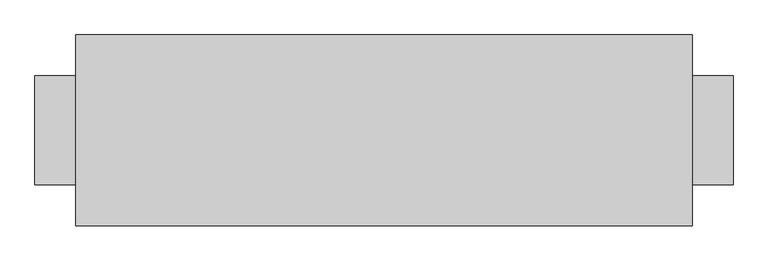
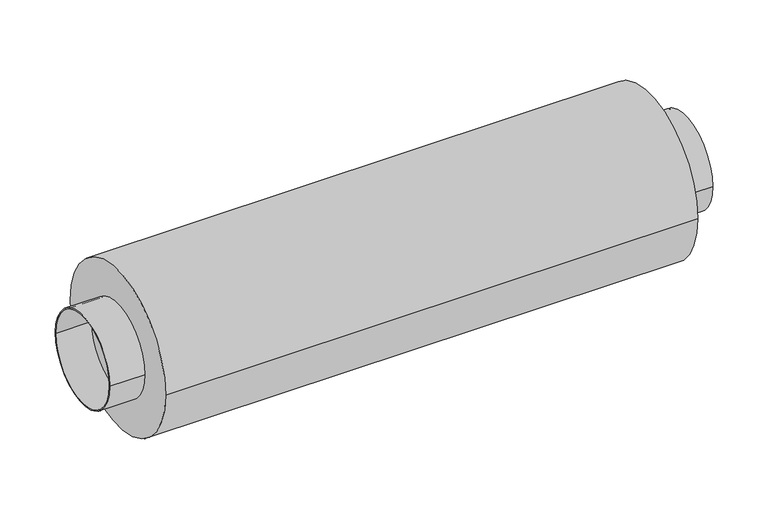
"""IFC4 building model written with IfcOpenShell, lengths in millimetres: damper geometry, СВ_Шумоглушитель_КанальныйКруглый_DN100-315_SHK : SHK-160/900."""

import ifcopenshell
import ifcopenshell.guid

model = None  # the IFC model being written
_history = None  # IfcOwnerHistory: only IFC2X3 demands one
_inside = {}  # id of a spatial element -> (the spatial element, [elements in it])
_under = {}  # id of a project, library or spatial element -> (it, [spatial elements below it])
_declared = {}  # id of a project -> (the project, [libraries it declares])
_typed = {}  # id of a type object -> (the type object, [elements of that type])
_made_of = {}  # id of a material, layer set ... -> (it, [elements and type objects made of it])


def new_model(schema):
    """Start an empty IFC model of exactly this schema.

    Asked for "IFC4X3", IfcOpenShell would pick the latest addendum, in which some entities
    have other attributes; the version numbers below select the first issue.
    IFC2X3 requires an IfcOwnerHistory on every rooted entity: one is made here for all.
    """
    global model, _history
    if schema == "IFC4X3":
        model = ifcopenshell.file(schema_version=(4, 3, 0, 0))
    else:
        model = ifcopenshell.file(schema=schema)
    _inside.clear()
    _under.clear()
    _declared.clear()
    _typed.clear()
    _made_of.clear()
    _history = None
    if model.schema == "IFC2X3":
        org = make("IfcOrganization", Name="unknown")
        user = make(
            "IfcPersonAndOrganization",
            ThePerson=make("IfcPerson", FamilyName="unknown"),
            TheOrganization=org,
        )
        app = make(
            "IfcApplication",
            ApplicationDeveloper=org,
            Version="unknown",
            ApplicationFullName="unknown",
            ApplicationIdentifier="unknown",
        )
        _history = make(
            "IfcOwnerHistory",
            OwningUser=user,
            OwningApplication=app,
            ChangeAction="ADDED",
            CreationDate=0,
        )
    return model


def make(cls, **values):
    """One entity of the class cls with the attributes given. An attribute that is None is left unset."""
    return model.create_entity(
        cls, **{name: value for name, value in values.items() if value is not None}
    )


def rooted(cls, **values):
    """An entity with a GlobalId (a new one), such as an element, a storey or a relation."""
    return make(cls, GlobalId=ifcopenshell.guid.new(), OwnerHistory=_history, **values)


def si_unit(unit_type, name, prefix=None):
    """IfcSIUnit, for example si_unit("LENGTHUNIT", "METRE", prefix="MILLI")."""
    return make("IfcSIUnit", UnitType=unit_type, Prefix=prefix, Name=name)


def assignment(units):
    """IfcUnitAssignment: the units of a project."""
    return None if units is None else make("IfcUnitAssignment", Units=units)


def point(xyz):
    """IfcCartesianPoint."""
    return None if xyz is None else make("IfcCartesianPoint", Coordinates=xyz)


def direction(xyz):
    """IfcDirection."""
    return None if xyz is None else make("IfcDirection", DirectionRatios=xyz)


def frame(location, z_axis=None, x_axis=None):
    """IfcAxis2Placement3D, a coordinate frame: its origin and axes. An axis left out is left unset."""
    return make(
        "IfcAxis2Placement3D",
        Location=point(location),
        Axis=direction(z_axis),
        RefDirection=direction(x_axis),
    )


def frame_2d(location, x_axis=None):
    """IfcAxis2Placement2D, a coordinate frame in the plane: its origin and x axis."""
    return make(
        "IfcAxis2Placement2D", Location=point(location), RefDirection=direction(x_axis)
    )


def origin():
    """The frame at (0, 0, 0) with its axes left unset."""
    return frame((0.0, 0.0, 0.0))


def origin_2d():
    """The frame at (0, 0) in the plane with its x axis left unset."""
    return frame_2d((0.0, 0.0))


def place(relative_to, where):
    """IfcLocalPlacement: puts the frame where relative to a parent placement (None: the world)."""
    return make(
        "IfcLocalPlacement", PlacementRelTo=relative_to, RelativePlacement=where
    )


def context(
    kind, dimensions, precision=None, world=None, true_north=None, identifier=None
):
    """IfcGeometricRepresentationContext, for example the 3D "Model" context."""
    return make(
        "IfcGeometricRepresentationContext",
        ContextIdentifier=identifier,
        ContextType=kind,
        CoordinateSpaceDimension=dimensions,
        Precision=precision,
        WorldCoordinateSystem=world,
        TrueNorth=true_north,
    )


def project(units=None, contexts=None):
    """IfcProject with its units and contexts."""
    return rooted(
        "IfcProject",
        Name="project",
        RepresentationContexts=contexts,
        UnitsInContext=assignment(units),
    )


def spatial(cls, under=None, at=None, **own):
    """A site, building, storey or space (cls), placed at a placement, below another one or the project."""
    s = rooted(cls, ObjectPlacement=at, **own)
    if under is not None:
        _under.setdefault(under.id(), (under, []))[1].append(s)
    return s


def circle_curve(where, radius):
    """IfcCircle in the frame where."""
    return make("IfcCircle", Position=where, Radius=radius)


def trimmed(basis, trim1, trim2, sense, master):
    """IfcTrimmedCurve: the piece of a basis curve between two trims."""
    return make(
        "IfcTrimmedCurve",
        BasisCurve=basis,
        Trim1=trim1,
        Trim2=trim2,
        SenseAgreement=sense,
        MasterRepresentation=master,
    )


def segment(curve, same_sense, transition):
    """IfcCompositeCurveSegment."""
    return make(
        "IfcCompositeCurveSegment",
        Transition=transition,
        SameSense=same_sense,
        ParentCurve=curve,
    )


def composite_curve(segments, self_intersect=None):
    """IfcCompositeCurve: segments joined end to end."""
    return make("IfcCompositeCurve", Segments=segments, SelfIntersect=self_intersect)


def outline(outer, holes=None, kind="AREA"):
    """IfcArbitraryClosedProfileDef: a profile drawn as a closed curve; with holes, ...WithVoids."""
    if holes is None:
        return make("IfcArbitraryClosedProfileDef", ProfileType=kind, OuterCurve=outer)
    return make(
        "IfcArbitraryProfileDefWithVoids",
        ProfileType=kind,
        OuterCurve=outer,
        InnerCurves=holes,
    )


def extrude(swept, where, along, depth):
    """IfcExtrudedAreaSolid: the profile swept, set in the frame where, extruded along a direction by depth."""
    return make(
        "IfcExtrudedAreaSolid",
        SweptArea=swept,
        Position=where,
        ExtrudedDirection=direction(along),
        Depth=depth,
    )


def shape(context_of_items, identifier, shape_type, items):
    """IfcShapeRepresentation: the items that make up one representation, for example the "Body"."""
    return make(
        "IfcShapeRepresentation",
        ContextOfItems=context_of_items,
        RepresentationIdentifier=identifier,
        RepresentationType=shape_type,
        Items=items,
    )


def source(mapping_origin, context_of_items, identifier, shape_type, items):
    """IfcRepresentationMap: a shape defined once, which mapped items show again and again."""
    return make(
        "IfcRepresentationMap",
        MappingOrigin=mapping_origin,
        MappedRepresentation=shape(context_of_items, identifier, shape_type, items),
    )


def transform(
    local_origin,
    x_axis=None,
    y_axis=None,
    z_axis=None,
    scale=None,
    scale2=None,
    scale3=None,
    uniform=True,
):
    """IfcCartesianTransformationOperator3D, or its non-uniform kind. x_axis, y_axis, z_axis: its Axis1, 2, 3."""
    if uniform:
        return make(
            "IfcCartesianTransformationOperator3D",
            Axis1=direction(x_axis),
            Axis2=direction(y_axis),
            LocalOrigin=point(local_origin),
            Scale=scale,
            Axis3=direction(z_axis),
        )
    return make(
        "IfcCartesianTransformationOperator3DnonUniform",
        Axis1=direction(x_axis),
        Axis2=direction(y_axis),
        LocalOrigin=point(local_origin),
        Scale=scale,
        Axis3=direction(z_axis),
        Scale2=scale2,
        Scale3=scale3,
    )


def mapped(mapping_source, mapping_target):
    """IfcMappedItem: shows the shape of a source again, moved by a transform."""
    return make(
        "IfcMappedItem", MappingSource=mapping_source, MappingTarget=mapping_target
    )


def made_of(thing, what):
    """Note that an element or type object is made of a material, layer set ...; save() writes the relation."""
    if what is not None:
        _made_of.setdefault(what.id(), (what, []))[1].append(thing)
    return thing


def element(
    cls,
    number,
    at=None,
    inside=None,
    cuts=None,
    type_object=None,
    material=None,
    context=None,
    identifier="Body",
    shape_type=None,
    held_by="IfcProductDefinitionShape",
    body=None,
    shapes=None,
    **own,
):
    """One element of the class cls, such as IfcWall. Its Tag is "e" and its number.

    at: its placement. inside: the storey or other place that contains it. cuts: it is an
    opening in that element (IfcRelVoidsElement). A single representation is given by context,
    identifier, shape_type and body (its items); several are given by shapes. held_by: the class
    of the entity that holds the representations. save() writes the other relations.
    """
    e = rooted(cls, Tag="e%d" % number, ObjectPlacement=at, **own)
    if body is not None:
        shapes = [shape(context, identifier, shape_type, body)]
    if shapes is not None:
        e.Representation = make(held_by, Representations=shapes)
    if inside is not None:
        _inside.setdefault(inside.id(), (inside, []))[1].append(e)
    if cuts is not None:
        rooted(
            "IfcRelVoidsElement", RelatingBuildingElement=cuts, RelatedOpeningElement=e
        )
    if type_object is not None:
        _typed.setdefault(type_object.id(), (type_object, []))[1].append(e)
    return made_of(e, material)


def aggregate(whole, parts):
    """IfcRelAggregates: a whole, such as a stair, and the parts it consists of."""
    return rooted("IfcRelAggregates", RelatingObject=whole, RelatedObjects=parts)


def save(model, path):
    """Write the relations noted so far, then the file.

    IfcRelAggregates (storeys below a building ...), IfcRelContainedInSpatialStructure (elements
    in a storey), IfcRelDefinesByType, IfcRelAssociatesMaterial and IfcRelDeclares: one each for
    every whole, place, type object, material and project.
    """
    for whole, parts in _under.values():
        aggregate(whole, parts)
    for where, things in _inside.values():
        rooted(
            "IfcRelContainedInSpatialStructure",
            RelatedElements=things,
            RelatingStructure=where,
        )
    for kind, things in _typed.values():
        rooted("IfcRelDefinesByType", RelatedObjects=things, RelatingType=kind)
    for what, things in _made_of.values():
        rooted("IfcRelAssociatesMaterial", RelatedObjects=things, RelatingMaterial=what)
    for by, libraries in _declared.values():
        rooted("IfcRelDeclares", RelatingContext=by, RelatedDefinitions=libraries)
    model.write(path)


def damper_ecefcbed(model_context):
    return source(origin(), model_context, "Body", "SweptSolid", [
        extrude(outline(composite_curve([segment(trimmed(circle_curve(origin_2d(), 139.5), [point((-139.5, 0.0))], [point((139.5, 0.0))], False, "CARTESIAN"), True, "CONTINUOUS"), segment(trimmed(circle_curve(origin_2d(), 139.5), [point((139.5, 0.0))], [point((-139.5, 0.0))], False, "CARTESIAN"), True, "CONTINUOUS")], self_intersect=False)), frame((-450.0, 0.0, 0.0), z_axis=(1.0, 0.0, 0.0), x_axis=(0.0, 1.0, 0.0)), (0.0, 0.0, 1.0), 900.0),
        extrude(outline(composite_curve([segment(trimmed(circle_curve(origin_2d(), 79.5), [point((-79.5, 0.0))], [point((79.5, 0.0))], False, "CARTESIAN"), True, "CONTINUOUS"), segment(trimmed(circle_curve(origin_2d(), 79.5), [point((79.5, 0.0))], [point((-79.5, 0.0))], False, "CARTESIAN"), True, "CONTINUOUS")], self_intersect=False), holes=[composite_curve([segment(trimmed(circle_curve(origin_2d(), 77.5), [point((-77.5, 0.0))], [point((77.5, 0.0))], True, "CARTESIAN"), True, "CONTINUOUS"), segment(trimmed(circle_curve(origin_2d(), 77.5), [point((77.5, 0.0))], [point((-77.5, 0.0))], True, "CARTESIAN"), True, "CONTINUOUS")], self_intersect=False)]), frame((-510.0, 0.0, 0.0), z_axis=(1.0, 0.0, 0.0), x_axis=(0.0, 1.0, 0.0)), (0.0, 0.0, 1.0), 60.0),
        extrude(outline(composite_curve([segment(trimmed(circle_curve(origin_2d(), 79.5), [point((-79.5, 0.0))], [point((79.5, 0.0))], False, "CARTESIAN"), True, "CONTINUOUS"), segment(trimmed(circle_curve(origin_2d(), 79.5), [point((79.5, 0.0))], [point((-79.5, 0.0))], False, "CARTESIAN"), True, "CONTINUOUS")], self_intersect=False), holes=[composite_curve([segment(trimmed(circle_curve(origin_2d(), 77.5), [point((-77.5, 0.0))], [point((77.5, 0.0))], True, "CARTESIAN"), True, "CONTINUOUS"), segment(trimmed(circle_curve(origin_2d(), 77.5), [point((77.5, 0.0))], [point((-77.5, 0.0))], True, "CARTESIAN"), True, "CONTINUOUS")], self_intersect=False)]), frame((450.0, 0.0, 0.0), z_axis=(1.0, 0.0, 0.0), x_axis=(0.0, 1.0, 0.0)), (0.0, 0.0, 1.0), 60.0),
    ])


if __name__ == "__main__":
    model = new_model("IFC4")
    model_context = context("Model", 3, world=origin())
    ifc_project = project(units=[si_unit("LENGTHUNIT", "METRE", prefix="MILLI")], contexts=[model_context])
    site = spatial("IfcSite", under=ifc_project)
    building = spatial("IfcBuilding", under=site)
    placement = place(None, origin())
    damper_shape = damper_ecefcbed(model_context)
    element("IfcDamper", 1, ObjectType="СВ_Шумоглушитель_КанальныйКруглый_DN100-315_SHK : SHK-160/900", at=placement, inside=building, context=model_context, shape_type="MappedRepresentation", body=[
        mapped(damper_shape, transform((0.0, 0.0, 0.0), x_axis=(1.0, 0.0, 0.0), y_axis=(0.0, 1.0, 0.0), z_axis=(0.0, 0.0, 1.0))),
    ])
    save(model, "model.ifc")
